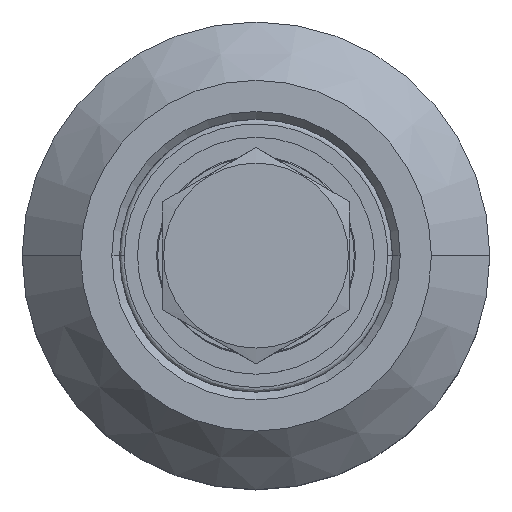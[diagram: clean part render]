
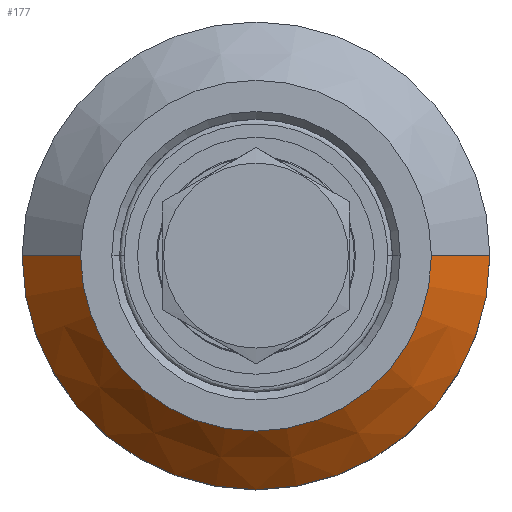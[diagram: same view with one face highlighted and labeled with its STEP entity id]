
A CAD part, top view. The second image highlights one B-rep face of the part: STEP entity #177.
In plain terms, the highlighted conical face has half-angle 45 degrees and reference radius 30 mm.
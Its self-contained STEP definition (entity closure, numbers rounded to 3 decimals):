
#3 = EDGE_CURVE ( 'NONE', #5491, #5474, #954, .T. ) ;
#97 = EDGE_CURVE ( 'NONE', #5489, #5458, #916, .T. ) ;
#177 = ADVANCED_FACE ( 'NONE', ( #3898 ), #3891, .T. ) ;
#446 = CARTESIAN_POINT ( 'NONE',  ( -22.5, 0., 0. ) ) ;
#461 = CARTESIAN_POINT ( 'NONE',  ( -30., 0., -7.5 ) ) ;
#463 = CARTESIAN_POINT ( 'NONE',  ( 30., 0., -7.5 ) ) ;
#468 = CARTESIAN_POINT ( 'NONE',  ( 22.5, 0., 0. ) ) ;
#568 = ORIENTED_EDGE ( 'NONE', *, *, #3, .F. ) ;
#570 = ORIENTED_EDGE ( 'NONE', *, *, #1337, .T. ) ;
#575 = ORIENTED_EDGE ( 'NONE', *, *, #97, .T. ) ;
#576 = ORIENTED_EDGE ( 'NONE', *, *, #1336, .F. ) ;
#683 = EDGE_LOOP ( 'NONE', ( #576, #575, #570, #568 ) ) ;
#916 = CIRCLE ( 'NONE', #2354, 22.5 ) ;
#954 = CIRCLE ( 'NONE', #2260, 30. ) ;
#1336 = EDGE_CURVE ( 'NONE', #5489, #5491, #3848, .T. ) ;
#1337 = EDGE_CURVE ( 'NONE', #5458, #5474, #3849, .T. ) ;
#1421 = CARTESIAN_POINT ( 'NONE',  ( 30., 0., -7.5 ) ) ;
#1425 = DIRECTION ( 'NONE',  ( 0.707, 0., -0.707 ) ) ;
#1427 = DIRECTION ( 'NONE',  ( -0.707, 0., -0.707 ) ) ;
#1449 = CARTESIAN_POINT ( 'NONE',  ( -30., 0., -7.5 ) ) ;
#2260 = AXIS2_PLACEMENT_3D ( 'NONE', #4987, #4986, #4985 ) ;
#2354 = AXIS2_PLACEMENT_3D ( 'NONE', #3512, #3602, #3672 ) ;
#2527 = AXIS2_PLACEMENT_3D ( 'NONE', #2711, #2714, #2716 ) ;
#2711 = CARTESIAN_POINT ( 'NONE',  ( 0., 0., -7.5 ) ) ;
#2714 = DIRECTION ( 'NONE',  ( 0., 0., -1. ) ) ;
#2716 = DIRECTION ( 'NONE',  ( -1., 0., 0. ) ) ;
#3512 = CARTESIAN_POINT ( 'NONE',  ( 0., 0., 0. ) ) ;
#3602 = DIRECTION ( 'NONE',  ( 0., 0., -1. ) ) ;
#3672 = DIRECTION ( 'NONE',  ( -1., 0., 0. ) ) ;
#3842 = VECTOR ( 'NONE', #1427, 1000. ) ;
#3848 = LINE ( 'NONE', #1421, #3866 ) ;
#3849 = LINE ( 'NONE', #1449, #3842 ) ;
#3866 = VECTOR ( 'NONE', #1425, 1000. ) ;
#3891 = CONICAL_SURFACE ( 'NONE', #2527, 30., 0.785 ) ;
#3898 = FACE_OUTER_BOUND ( 'NONE', #683, .T. ) ;
#4985 = DIRECTION ( 'NONE',  ( 1., 0., 0. ) ) ;
#4986 = DIRECTION ( 'NONE',  ( 0., 0., -1. ) ) ;
#4987 = CARTESIAN_POINT ( 'NONE',  ( 0., 0., -7.5 ) ) ;
#5458 = VERTEX_POINT ( 'NONE', #446 ) ;
#5474 = VERTEX_POINT ( 'NONE', #461 ) ;
#5489 = VERTEX_POINT ( 'NONE', #468 ) ;
#5491 = VERTEX_POINT ( 'NONE', #463 ) ;
